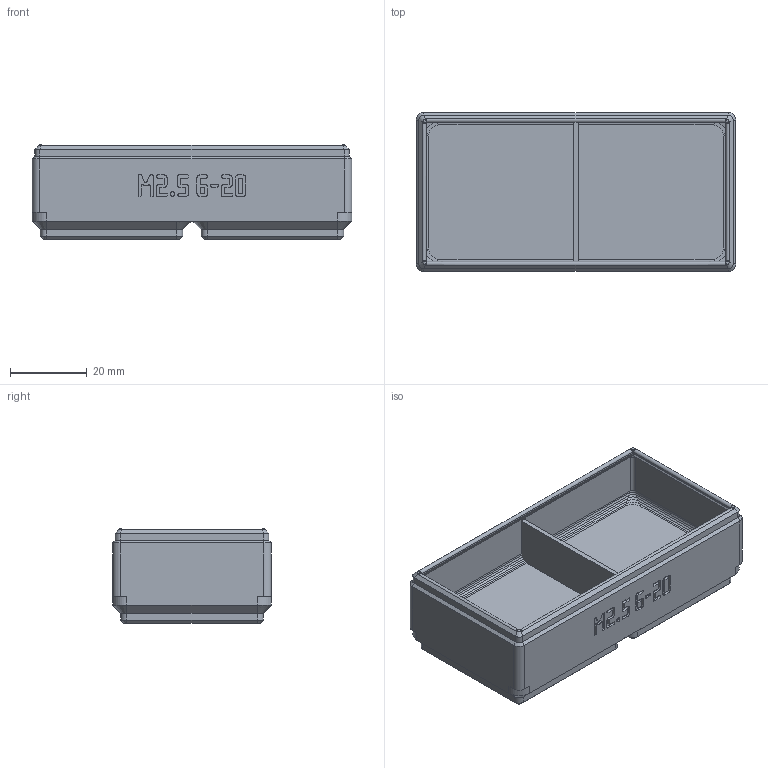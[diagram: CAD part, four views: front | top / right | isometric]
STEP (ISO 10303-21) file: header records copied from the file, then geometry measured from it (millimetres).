
FILE_DESCRIPTION(('Open CASCADE Model'),'2;1');
FILE_NAME('Open CASCADE Shape Model','2026-11-03T14:04:40',('Author'),( 'Open CASCADE'),'Open CASCADE STEP processor 8.0','build123d', 'Unknown');
FILE_SCHEMA(('AUTOMOTIVE_DESIGN { 1 0 10303 214 1 1 1 1 }'));
Products named in the file (1): SOLID
Bounding box: 83.5 x 41.5 x 24.7 mm (x, y, z)
Volume: 25316 mm3; surface area: 24298.7 mm2
Topology: 1 solids, 1 shells, 965 faces, 2691 edges, 1738 vertices
Faces by surface type: plane 805, bspline 104, cylinder 36, cone 20
Entity records: 69120 total; most frequent: CARTESIAN_POINT 16475, DIRECTION 9227, LINE 7247, VECTOR 7247, ORIENTED_EDGE 5382, PCURVE 5382, DEFINITIONAL_REPRESENTATION 5382, EDGE_CURVE 2691
